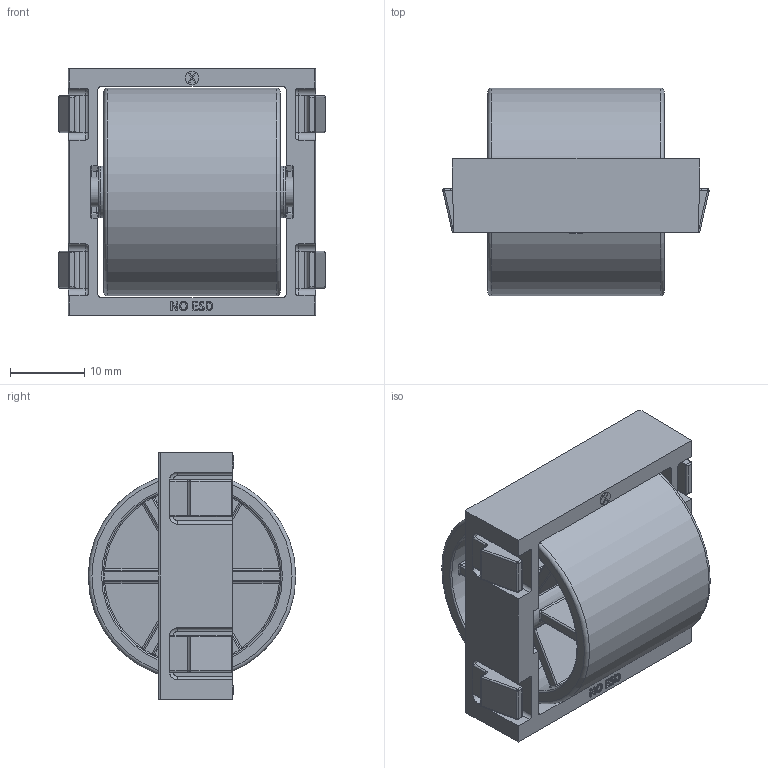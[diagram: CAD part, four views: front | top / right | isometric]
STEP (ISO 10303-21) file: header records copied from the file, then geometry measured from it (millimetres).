
FILE_DESCRIPTION (( 'STEP AP203' ), '1' );
FILE_NAME ('062AER2891.33.STEP', '2015-09-14T12:18:09', ( 'Fath' ), ( 'Hewlett-Packard Company' ), 'SwSTEP 2.0', 'SolidWorks 2014', '' );
FILE_SCHEMA (( 'CONFIG_CONTROL_DESIGN' ));
Length unit declared in the file: millimetre
Products named in the file (4): 062RR2891_062RR2891 black; 062AXM_d4 l32; 062AER2891.33; 062AER91.50_062ACR2891.33
Assembly tree (3 placements, depth 2):
  062AER2891.33
    062AER91.50_062ACR2891.33
    062RR2891_062RR2891 black
    062AXM_d4 l32
Bounding box: 35.9 x 28 x 33.3 mm (x, y, z)
Volume: 9959.3 mm3; surface area: 11702.2 mm2
Topology: 3 solids, 3 shells, 862 faces, 2140 edges, 1239 vertices
Faces by surface type: plane 286, cylinder 258, bspline 132, sphere 92, torus 90, cone 4
Entity records: 29060 total; most frequent: CARTESIAN_POINT 9470, ORIENTED_EDGE 4112, DIRECTION 3907, EDGE_CURVE 2056, AXIS2_PLACEMENT_3D 1431, VERTEX_POINT 1219, VECTOR 1045, LINE 1045
